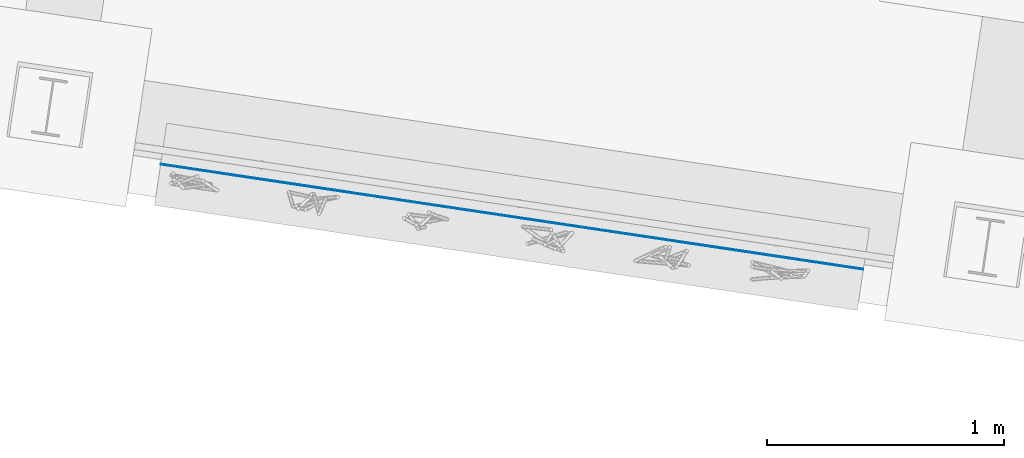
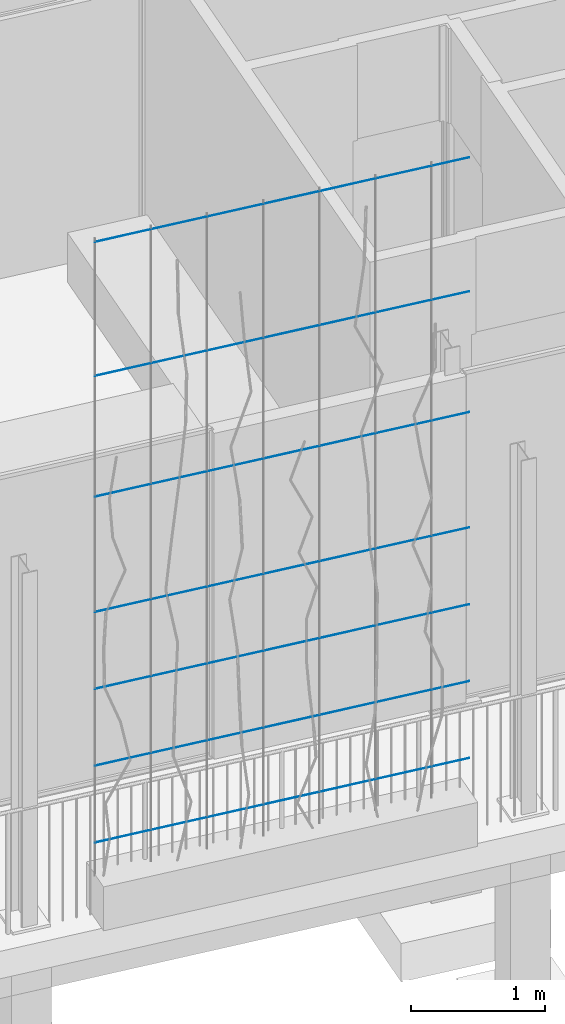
# One storey, part 51 of 142: 7 members, 1 element without a shape of its own.
"""IFC4 building model written with IfcOpenShell, lengths in metres."""

from ifc_helpers import new_model, si_unit, direction, frame, origin_with_axes, place, context, subcontext, project, spatial, circle, extrude, material, material_profile, profile_set, profile_usage, type_object, element, aggregate, save


model = new_model("IFC4")

# Units and contexts
model_context = context("Model", 3, precision=1e-05, world=origin_with_axes(), true_north=direction((0.0, 1.0)))
body_context = subcontext(model_context, "Body", "Model", "MODEL_VIEW")
ifc_project = project(units=[si_unit("AREAUNIT", "SQUARE_METRE"), si_unit("VOLUMEUNIT", "CUBIC_METRE"), si_unit("LENGTHUNIT", "METRE")], contexts=[model_context])

# Site, building, storey
site_placement = place(None, origin_with_axes())
site = spatial("IfcSite", under=ifc_project, at=site_placement, Name="Lares · Rua das Mercês · artigo 4771")
building_placement = place(site_placement, frame((15.0, 9.7, 14.65), z_axis=(0.0, 0.0, 1.0), x_axis=(0.989015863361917, -0.147809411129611, 0.0)))
building = spatial("IfcBuilding", under=site, at=building_placement, Name="Casa Sobreposta")
storey_placement = place(building_placement, origin_with_axes())
storey = spatial("IfcBuildingStorey", under=building, at=storey_placement, Name="00 · Habitação e estacionamento", Elevation=14.65)

# Assembly, members
assembly_placement = place(storey_placement, origin_with_axes())
assembly = element("IfcElementAssembly", 1, at=assembly_placement, inside=storey, Name="Fachada sul e pátio · estrutura e trepadeiras", ObjectType="LIVING_SHADE_TRELLIS", PredefinedType="USERDEFINED")
ifc_material = material(Name="Aço galvanizado / Stahl verzinkt", Category="steel")
ifc_material_profile = material_profile(ifc_material, circle(Radius=0.002))
ifc_profile_set = profile_set([ifc_material_profile], Name="D0.004")
ifc_profile_usage_1 = profile_usage(ifc_profile_set)
member_type = type_object("IfcMemberType", Name="D0.004 / galvanized", PredefinedType="NOTDEFINED", material=ifc_profile_set)
member_1_placement = place(assembly_placement, frame((4.5, -1.61, 0.65), z_axis=(1.0, 0.0, 0.0), x_axis=(0.0, -1.0, 0.0)))
member_1 = element("IfcMember", 2, at=member_1_placement, type_object=member_type, material=ifc_profile_usage_1, Name="Trepadeiras · fio horizontal", context=body_context, shape_type="SweptSolid", body=[
    extrude(circle(Radius=0.002), origin_with_axes(), (0.0, 0.0, 1.0), 3.0),
])
ifc_profile_usage_2 = profile_usage(ifc_profile_set)
member_2_placement = place(assembly_placement, frame((4.5, -1.61, 1.35), z_axis=(1.0, 0.0, 0.0), x_axis=(0.0, -1.0, 0.0)))
member_2 = element("IfcMember", 3, at=member_2_placement, type_object=member_type, material=ifc_profile_usage_2, Name="Trepadeiras · fio horizontal", context=body_context, shape_type="SweptSolid", body=[
    extrude(circle(Radius=0.002), origin_with_axes(), (0.0, 0.0, 1.0), 3.0),
])
ifc_profile_usage_3 = profile_usage(ifc_profile_set)
member_3_placement = place(assembly_placement, frame((4.5, -1.61, 2.05), z_axis=(1.0, 0.0, 0.0), x_axis=(0.0, -1.0, 0.0)))
member_3 = element("IfcMember", 4, at=member_3_placement, type_object=member_type, material=ifc_profile_usage_3, Name="Trepadeiras · fio horizontal", context=body_context, shape_type="SweptSolid", body=[
    extrude(circle(Radius=0.002), origin_with_axes(), (0.0, 0.0, 1.0), 3.0),
])
ifc_profile_usage_4 = profile_usage(ifc_profile_set)
member_4_placement = place(assembly_placement, frame((4.5, -1.61, 2.75), z_axis=(1.0, 0.0, 0.0), x_axis=(0.0, -1.0, 0.0)))
member_4 = element("IfcMember", 5, at=member_4_placement, type_object=member_type, material=ifc_profile_usage_4, Name="Trepadeiras · fio horizontal", context=body_context, shape_type="SweptSolid", body=[
    extrude(circle(Radius=0.002), origin_with_axes(), (0.0, 0.0, 1.0), 3.0),
])
ifc_profile_usage_5 = profile_usage(ifc_profile_set)
member_5_placement = place(assembly_placement, frame((4.5, -1.61, 3.8), z_axis=(1.0, 0.0, 0.0), x_axis=(0.0, -1.0, 0.0)))
member_5 = element("IfcMember", 6, at=member_5_placement, type_object=member_type, material=ifc_profile_usage_5, Name="Trepadeiras · fio horizontal", context=body_context, shape_type="SweptSolid", body=[
    extrude(circle(Radius=0.002), origin_with_axes(), (0.0, 0.0, 1.0), 3.0),
])
ifc_profile_usage_6 = profile_usage(ifc_profile_set)
member_6_placement = place(assembly_placement, frame((4.5, -1.61, 4.9), z_axis=(1.0, 0.0, 0.0), x_axis=(0.0, -1.0, 0.0)))
member_6 = element("IfcMember", 7, at=member_6_placement, type_object=member_type, material=ifc_profile_usage_6, Name="Trepadeiras · fio horizontal", context=body_context, shape_type="SweptSolid", body=[
    extrude(circle(Radius=0.002), origin_with_axes(), (0.0, 0.0, 1.0), 3.0),
])
ifc_profile_usage_7 = profile_usage(ifc_profile_set)
member_7_placement = place(assembly_placement, frame((4.5, -1.61, 6.12), z_axis=(1.0, 0.0, 0.0), x_axis=(0.0, -1.0, 0.0)))
member_7 = element("IfcMember", 8, at=member_7_placement, type_object=member_type, material=ifc_profile_usage_7, Name="Trepadeiras · fio horizontal", context=body_context, shape_type="SweptSolid", body=[
    extrude(circle(Radius=0.002), origin_with_axes(), (0.0, 0.0, 1.0), 3.0),
])
aggregate(assembly, [member_1, member_2, member_3, member_4, member_5, member_6, member_7])

save(model, "model.ifc")
